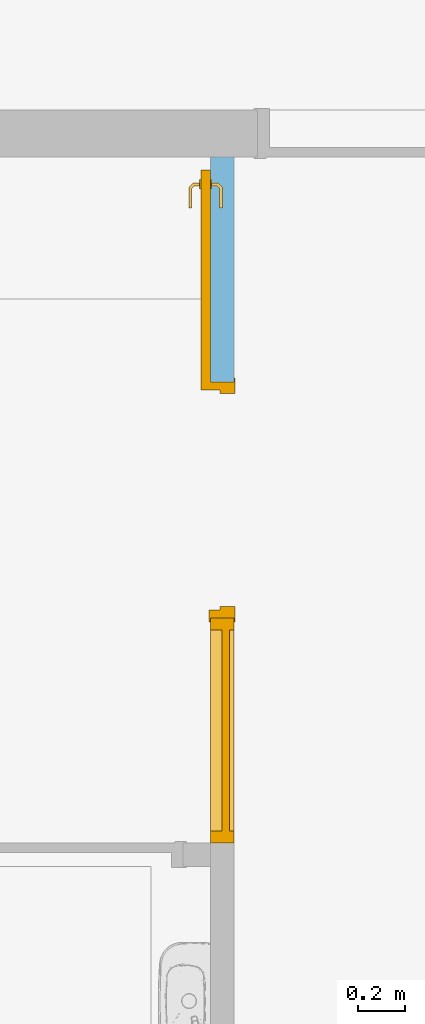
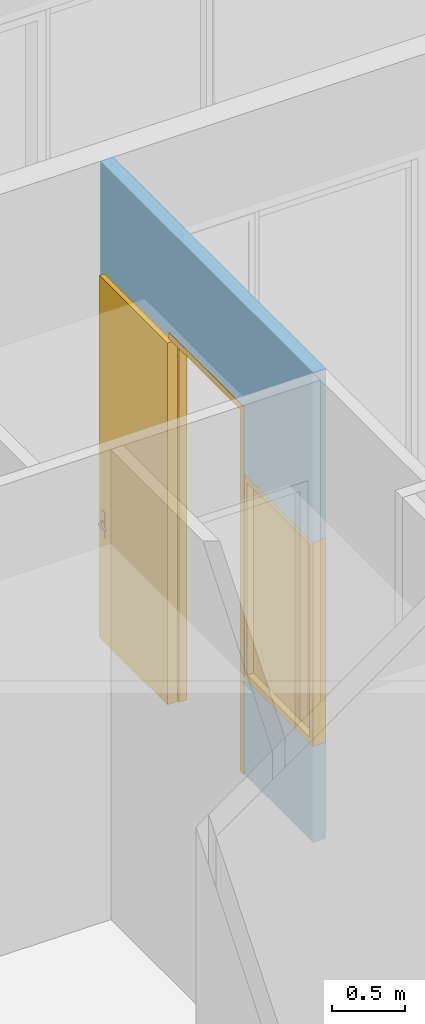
# One storey, part 219 of 240: 1 door, 1 window, 2 openings, plus 1 element that does not belong to this part.
"""IFC2X3 building model written with IfcOpenShell, lengths in centimetres."""

import ifcopenshell
import ifcopenshell.guid

model = None  # the IFC model being written
_history = None  # IfcOwnerHistory: only IFC2X3 demands one
_inside = {}  # id of a spatial element -> (the spatial element, [elements in it])
_under = {}  # id of a project, library or spatial element -> (it, [spatial elements below it])
_declared = {}  # id of a project -> (the project, [libraries it declares])
_typed = {}  # id of a type object -> (the type object, [elements of that type])
_made_of = {}  # id of a material, layer set ... -> (it, [elements and type objects made of it])


def new_model(schema):
    """Start an empty IFC model of exactly this schema.

    Asked for "IFC4X3", IfcOpenShell would pick the latest addendum, in which some entities
    have other attributes; the version numbers below select the first issue.
    IFC2X3 requires an IfcOwnerHistory on every rooted entity: one is made here for all.
    """
    global model, _history
    if schema == "IFC4X3":
        model = ifcopenshell.file(schema_version=(4, 3, 0, 0))
    else:
        model = ifcopenshell.file(schema=schema)
    _inside.clear()
    _under.clear()
    _declared.clear()
    _typed.clear()
    _made_of.clear()
    _history = None
    if model.schema == "IFC2X3":
        org = make("IfcOrganization", Name="unknown")
        user = make(
            "IfcPersonAndOrganization",
            ThePerson=make("IfcPerson", FamilyName="unknown"),
            TheOrganization=org,
        )
        app = make(
            "IfcApplication",
            ApplicationDeveloper=org,
            Version="unknown",
            ApplicationFullName="unknown",
            ApplicationIdentifier="unknown",
        )
        _history = make(
            "IfcOwnerHistory",
            OwningUser=user,
            OwningApplication=app,
            ChangeAction="ADDED",
            CreationDate=0,
        )
    return model


def make(cls, **values):
    """One entity of the class cls with the attributes given. An attribute that is None is left unset."""
    return model.create_entity(
        cls, **{name: value for name, value in values.items() if value is not None}
    )


def entity(cls, *values):
    """Any entity or typed value of the class cls, its attributes in the order of the schema. None: left unset."""
    e = model.create_entity(cls)
    for i, value in enumerate(values):
        if value is not None:
            e[i] = value
    return e


def rooted(cls, **values):
    """An entity with a GlobalId (a new one), such as an element, a storey or a relation."""
    return make(cls, GlobalId=ifcopenshell.guid.new(), OwnerHistory=_history, **values)


def si_unit(unit_type, name, prefix=None):
    """IfcSIUnit, for example si_unit("LENGTHUNIT", "METRE", prefix="MILLI")."""
    return make("IfcSIUnit", UnitType=unit_type, Prefix=prefix, Name=name)


def converted_unit(unit_type, name, factor, base, dimensions=None, offset=None):
    """IfcConversionBasedUnit, such as the inch: factor (a typed value) times the base unit."""
    return make(
        "IfcConversionBasedUnit"
        if offset is None
        else "IfcConversionBasedUnitWithOffset",
        ConversionOffset=offset,
        Dimensions=None
        if dimensions is None
        else entity("IfcDimensionalExponents", *dimensions),
        UnitType=unit_type,
        Name=name,
        ConversionFactor=make(
            "IfcMeasureWithUnit", ValueComponent=factor, UnitComponent=base
        ),
    )


def derived_unit(unit_type, elements):
    """IfcDerivedUnit: a product of units, each with its exponent."""
    return make(
        "IfcDerivedUnit",
        Elements=[
            make("IfcDerivedUnitElement", Unit=unit, Exponent=power)
            for unit, power in elements
        ],
        UnitType=unit_type,
    )


def assignment(units):
    """IfcUnitAssignment: the units of a project."""
    return None if units is None else make("IfcUnitAssignment", Units=units)


def point(xyz):
    """IfcCartesianPoint."""
    return None if xyz is None else make("IfcCartesianPoint", Coordinates=xyz)


def direction(xyz):
    """IfcDirection."""
    return None if xyz is None else make("IfcDirection", DirectionRatios=xyz)


def frame(location, z_axis=None, x_axis=None):
    """IfcAxis2Placement3D, a coordinate frame: its origin and axes. An axis left out is left unset."""
    return make(
        "IfcAxis2Placement3D",
        Location=point(location),
        Axis=direction(z_axis),
        RefDirection=direction(x_axis),
    )


def frame_2d(location, x_axis=None):
    """IfcAxis2Placement2D, a coordinate frame in the plane: its origin and x axis."""
    return make(
        "IfcAxis2Placement2D", Location=point(location), RefDirection=direction(x_axis)
    )


def origin():
    """The frame at (0, 0, 0) with its axes left unset."""
    return frame((0.0, 0.0, 0.0))


def place(relative_to, where):
    """IfcLocalPlacement: puts the frame where relative to a parent placement (None: the world)."""
    return make(
        "IfcLocalPlacement", PlacementRelTo=relative_to, RelativePlacement=where
    )


def context(
    kind, dimensions, precision=None, world=None, true_north=None, identifier=None
):
    """IfcGeometricRepresentationContext, for example the 3D "Model" context."""
    return make(
        "IfcGeometricRepresentationContext",
        ContextIdentifier=identifier,
        ContextType=kind,
        CoordinateSpaceDimension=dimensions,
        Precision=precision,
        WorldCoordinateSystem=world,
        TrueNorth=true_north,
    )


def subcontext(parent, identifier, kind, view, scale=None):
    """IfcGeometricRepresentationSubContext, for example "Body" below "Model"."""
    return make(
        "IfcGeometricRepresentationSubContext",
        ContextIdentifier=identifier,
        ContextType=kind,
        ParentContext=parent,
        TargetScale=scale,
        TargetView=view,
    )


def project(units=None, contexts=None):
    """IfcProject with its units and contexts."""
    return rooted(
        "IfcProject",
        Name="project",
        RepresentationContexts=contexts,
        UnitsInContext=assignment(units),
    )


def spatial(cls, under=None, at=None, **own):
    """A site, building, storey or space (cls), placed at a placement, below another one or the project."""
    s = rooted(cls, ObjectPlacement=at, **own)
    if under is not None:
        _under.setdefault(under.id(), (under, []))[1].append(s)
    return s


def polyline(points):
    """IfcPolyline through the points."""
    return make("IfcPolyline", Points=[point(p) for p in points])


def profile(cls, at=None, kind="AREA", **sizes):
    """A parametric profile (cls). Its sizes go by their IFC names, for example OverallWidth=200.0."""
    return make(cls, ProfileType=kind, Position=at, **sizes)


def rectangle(**sizes):
    """IfcRectangleProfileDef."""
    return profile("IfcRectangleProfileDef", **sizes)


def extrude(swept, where, along, depth):
    """IfcExtrudedAreaSolid: the profile swept, set in the frame where, extruded along a direction by depth."""
    return make(
        "IfcExtrudedAreaSolid",
        SweptArea=swept,
        Position=where,
        ExtrudedDirection=direction(along),
        Depth=depth,
    )


def clip(a, b, op="DIFFERENCE"):
    """IfcBooleanClippingResult: the solid a cut by the half space b."""
    return make(
        "IfcBooleanClippingResult", Operator=op, FirstOperand=a, SecondOperand=b
    )


def bounded_halfspace(plane, agree, where, boundary):
    """IfcPolygonalBoundedHalfSpace: a half space limited to a polygon's prism."""
    return make(
        "IfcPolygonalBoundedHalfSpace",
        BaseSurface=make("IfcPlane", Position=plane),
        AgreementFlag=agree,
        Position=where,
        PolygonalBoundary=boundary,
    )


def faces_of(points, faces, orient=None, outer=None):
    """IfcFace entities. A face is a list of loops; a loop is a list of indices into points, from 0.

    orient and outer hold one flag for each loop. By default every Orientation is true, the
    first loop of a face is its IfcFaceOuterBound and the others are IfcFaceBound.
    """
    made = []
    for i, loops in enumerate(faces):
        bounds = []
        for j, loop in enumerate(loops):
            is_outer = j == 0 if outer is None else outer[i][j]
            bounds.append(
                make(
                    "IfcFaceOuterBound" if is_outer else "IfcFaceBound",
                    Bound=make("IfcPolyLoop", Polygon=[points[k] for k in loop]),
                    Orientation=True if orient is None else orient[i][j],
                )
            )
        made.append(make("IfcFace", Bounds=bounds))
    return made


def faceted_brep(points, faces, orient=None, outer=None, voids=None):
    """IfcFacetedBrep: a solid bounded by flat faces; with voids (closed shells), ...WithVoids."""
    shared = [point(p) for p in points]
    hull = make("IfcClosedShell", CfsFaces=faces_of(shared, faces, orient, outer))
    if voids is None:
        return make("IfcFacetedBrep", Outer=hull)
    return make(
        "IfcFacetedBrepWithVoids",
        Outer=hull,
        Voids=[
            make(cls, CfsFaces=faces_of(shared, fs, o, b)) for cls, fs, o, b in voids
        ],
    )


def shape(context_of_items, identifier, shape_type, items):
    """IfcShapeRepresentation: the items that make up one representation, for example the "Body"."""
    return make(
        "IfcShapeRepresentation",
        ContextOfItems=context_of_items,
        RepresentationIdentifier=identifier,
        RepresentationType=shape_type,
        Items=items,
    )


def source(mapping_origin, context_of_items, identifier, shape_type, items):
    """IfcRepresentationMap: a shape defined once, which mapped items show again and again."""
    return make(
        "IfcRepresentationMap",
        MappingOrigin=mapping_origin,
        MappedRepresentation=shape(context_of_items, identifier, shape_type, items),
    )


def transform(
    local_origin,
    x_axis=None,
    y_axis=None,
    z_axis=None,
    scale=None,
    scale2=None,
    scale3=None,
    uniform=True,
):
    """IfcCartesianTransformationOperator3D, or its non-uniform kind. x_axis, y_axis, z_axis: its Axis1, 2, 3."""
    if uniform:
        return make(
            "IfcCartesianTransformationOperator3D",
            Axis1=direction(x_axis),
            Axis2=direction(y_axis),
            LocalOrigin=point(local_origin),
            Scale=scale,
            Axis3=direction(z_axis),
        )
    return make(
        "IfcCartesianTransformationOperator3DnonUniform",
        Axis1=direction(x_axis),
        Axis2=direction(y_axis),
        LocalOrigin=point(local_origin),
        Scale=scale,
        Axis3=direction(z_axis),
        Scale2=scale2,
        Scale3=scale3,
    )


def mapped(mapping_source, mapping_target):
    """IfcMappedItem: shows the shape of a source again, moved by a transform."""
    return make(
        "IfcMappedItem", MappingSource=mapping_source, MappingTarget=mapping_target
    )


def material(Name=None, Category=None):
    """IfcMaterial."""
    return make("IfcMaterial", Name=Name, Category=Category)


def material_list(materials):
    """IfcMaterialList."""
    return make("IfcMaterialList", Materials=materials)


def layer(
    of_material, thickness, ventilated=None, Name=None, Category=None, Priority=None
):
    """IfcMaterialLayer: one layer of a wall or slab, of a material (None: an air gap)."""
    return make(
        "IfcMaterialLayer",
        Material=of_material,
        LayerThickness=thickness,
        IsVentilated=ventilated,
        Name=Name,
        Category=Category,
        Priority=Priority,
    )


def layer_set(layers, Name=None):
    """IfcMaterialLayerSet."""
    return make("IfcMaterialLayerSet", MaterialLayers=layers, LayerSetName=Name)


def layer_usage(for_layer_set, set_direction, sense, offset, extent=None):
    """IfcMaterialLayerSetUsage: how a layer set lies in its element."""
    return make(
        "IfcMaterialLayerSetUsage",
        ForLayerSet=for_layer_set,
        LayerSetDirection=set_direction,
        DirectionSense=sense,
        OffsetFromReferenceLine=offset,
        ReferenceExtent=extent,
    )


def made_of(thing, what):
    """Note that an element or type object is made of a material, layer set ...; save() writes the relation."""
    if what is not None:
        _made_of.setdefault(what.id(), (what, []))[1].append(thing)
    return thing


def type_object(cls, material=None, **own):
    """A type object (cls), such as IfcWallType, which elements share."""
    return made_of(rooted(cls, **own), material)


def type_shapes(of_type, sources):
    """Give a type object the sources (RepresentationMaps) that its elements show as mapped items."""
    of_type.RepresentationMaps = sources


def element(
    cls,
    number,
    at=None,
    inside=None,
    cuts=None,
    type_object=None,
    material=None,
    context=None,
    identifier="Body",
    shape_type=None,
    held_by="IfcProductDefinitionShape",
    body=None,
    shapes=None,
    **own,
):
    """One element of the class cls, such as IfcWall. Its Tag is "e" and its number.

    at: its placement. inside: the storey or other place that contains it. cuts: it is an
    opening in that element (IfcRelVoidsElement). A single representation is given by context,
    identifier, shape_type and body (its items); several are given by shapes. held_by: the class
    of the entity that holds the representations. save() writes the other relations.
    """
    e = rooted(cls, Tag="e%d" % number, ObjectPlacement=at, **own)
    if body is not None:
        shapes = [shape(context, identifier, shape_type, body)]
    if shapes is not None:
        e.Representation = make(held_by, Representations=shapes)
    if inside is not None:
        _inside.setdefault(inside.id(), (inside, []))[1].append(e)
    if cuts is not None:
        rooted(
            "IfcRelVoidsElement", RelatingBuildingElement=cuts, RelatedOpeningElement=e
        )
    if type_object is not None:
        _typed.setdefault(type_object.id(), (type_object, []))[1].append(e)
    return made_of(e, material)


def fill(opening, filler):
    """IfcRelFillsElement: the door or window that sits in an opening."""
    return rooted(
        "IfcRelFillsElement",
        RelatingOpeningElement=opening,
        RelatedBuildingElement=filler,
    )


def aggregate(whole, parts):
    """IfcRelAggregates: a whole, such as a stair, and the parts it consists of."""
    return rooted("IfcRelAggregates", RelatingObject=whole, RelatedObjects=parts)


def save(model, path):
    """Write the relations noted so far, then the file.

    IfcRelAggregates (storeys below a building ...), IfcRelContainedInSpatialStructure (elements
    in a storey), IfcRelDefinesByType, IfcRelAssociatesMaterial and IfcRelDeclares: one each for
    every whole, place, type object, material and project.
    """
    for whole, parts in _under.values():
        aggregate(whole, parts)
    for where, things in _inside.values():
        rooted(
            "IfcRelContainedInSpatialStructure",
            RelatedElements=things,
            RelatingStructure=where,
        )
    for kind, things in _typed.values():
        rooted("IfcRelDefinesByType", RelatedObjects=things, RelatingType=kind)
    for what, things in _made_of.values():
        rooted("IfcRelAssociatesMaterial", RelatedObjects=things, RelatingMaterial=what)
    for by, libraries in _declared.values():
        rooted("IfcRelDeclares", RelatingContext=by, RelatedDefinitions=libraries)
    model.write(path)


model = new_model("IFC2X3")

# Units and contexts
model_context = context("Model", 3, precision=0.001, world=origin(), true_north=direction((6.12303176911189e-17, 1.0)))
body_context = subcontext(model_context, "Body", "Model", "MODEL_VIEW")
ifc_project = project(units=[si_unit("LENGTHUNIT", "METRE", prefix="CENTI"), si_unit("AREAUNIT", "SQUARE_METRE"), si_unit("VOLUMEUNIT", "CUBIC_METRE"), converted_unit("PLANEANGLEUNIT", "DEGREE", entity("IfcRatioMeasure", 0.0174532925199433), si_unit("PLANEANGLEUNIT", "RADIAN"), dimensions=[0, 0, 0, 0, 0, 0, 0]), si_unit("MASSUNIT", "GRAM", prefix="KILO"), derived_unit("MASSDENSITYUNIT", [(si_unit("MASSUNIT", "GRAM", prefix="KILO"), 1), (si_unit("LENGTHUNIT", "METRE"), -3)]), si_unit("TIMEUNIT", "SECOND"), si_unit("FREQUENCYUNIT", "HERTZ"), si_unit("THERMODYNAMICTEMPERATUREUNIT", "DEGREE_CELSIUS"), derived_unit("THERMALTRANSMITTANCEUNIT", [(si_unit("MASSUNIT", "GRAM", prefix="KILO"), 1), (si_unit("THERMODYNAMICTEMPERATUREUNIT", "KELVIN"), -1), (si_unit("TIMEUNIT", "SECOND"), -3)]), derived_unit("VOLUMETRICFLOWRATEUNIT", [(si_unit("LENGTHUNIT", "METRE"), 3), (si_unit("TIMEUNIT", "SECOND"), -1)]), si_unit("ELECTRICCURRENTUNIT", "AMPERE"), si_unit("ELECTRICVOLTAGEUNIT", "VOLT"), si_unit("POWERUNIT", "WATT"), si_unit("FORCEUNIT", "NEWTON", prefix="KILO"), si_unit("ILLUMINANCEUNIT", "LUX"), si_unit("LUMINOUSFLUXUNIT", "LUMEN"), si_unit("LUMINOUSINTENSITYUNIT", "CANDELA"), derived_unit("USERDEFINED", [(si_unit("MASSUNIT", "GRAM", prefix="KILO"), -1), (si_unit("LENGTHUNIT", "METRE"), -2), (si_unit("TIMEUNIT", "SECOND"), 3), (si_unit("LUMINOUSFLUXUNIT", "LUMEN"), 1)]), derived_unit("LINEARVELOCITYUNIT", [(si_unit("LENGTHUNIT", "METRE"), 1), (si_unit("TIMEUNIT", "SECOND"), -1)]), si_unit("PRESSUREUNIT", "PASCAL"), derived_unit("USERDEFINED", [(si_unit("LENGTHUNIT", "METRE"), -2), (si_unit("MASSUNIT", "GRAM", prefix="KILO"), 1), (si_unit("TIMEUNIT", "SECOND"), -2)])], contexts=[model_context])

# Site, building, storey
site_placement = place(None, frame((-2781.94577612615, 7442.24238424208, 0.0)))
site = spatial("IfcSite", under=ifc_project, at=site_placement, Name="Default", CompositionType="ELEMENT")
building_placement = place(site_placement, origin())
building = spatial("IfcBuilding", under=site, at=building_placement, CompositionType="ELEMENT")
storey_placement = place(building_placement, origin())
storey = spatial("IfcBuildingStorey", under=building, at=storey_placement, Name="N00 - COO", CompositionType="ELEMENT", Elevation=0.0)

# Wall, openings, door, window
ifc_material_1 = material(Name="01 - Enduit/Plâtre")
ifc_layer_1 = layer(ifc_material_1, 1.3)
ifc_material_2 = material(Name="00 - Isolant")
ifc_layer_2 = layer(ifc_material_2, 7.4)
ifc_layer_3 = layer(ifc_material_1, 1.3)
ifc_layer_set = layer_set([ifc_layer_1, ifc_layer_2, ifc_layer_3], Name="Mur de base:06 - cloisons - Ba13 10cm")
ifc_layer_usage = layer_usage(ifc_layer_set, "AXIS2", "NEGATIVE", 5.0)
wall_type = type_object("IfcWallType", Name="Mur de base:06 - cloisons - Ba13 10cm", PredefinedType="STANDARD", material=ifc_layer_set)
wall_placement = place(building_placement, frame((-5114.49987760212, -1110.0, 0.0), z_axis=(0.0, 0.0, 1.0), x_axis=(0.0, -1.0, 0.0)))
wall = element("IfcWallStandardCase", 1, at=wall_placement, inside=storey, type_object=wall_type, material=ifc_layer_usage, Name="Mur de base:06 - cloisons - Ba13 10cm", ObjectType="Mur de base:06 - cloisons - Ba13 10cm", context=body_context, shape_type="Clipping", body=[
    clip(extrude(rectangle(XDim=290.000000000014, YDim=9.99999999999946, at=frame_2d((145.000000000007, 1.57207580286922e-13), x_axis=(-1.0, 0.0))), origin(), (0.0, 0.0, 1.0), 391.0), bounded_halfspace(frame((0.0, -5.0, 391.0), z_axis=(0.0, 0.0, -1.0), x_axis=(-1.0, 0.0, 0.0)), True, frame((0.0, -5.0, 391.0)), polyline([(0.0, 0.0), (290.0, 0.0), (290.0, 10.0), (0.0, 10.0), (0.0, 0.0)]))),
])
opening_1_placement = place(wall_placement, frame((195.0, 5.0, 0.0)))
opening_1 = element("IfcOpeningElement", 2, at=opening_1_placement, cuts=wall, Name="Int. Simple:PV (0.93m x 3.00m):1", ObjectType="Opening", context=body_context, shape_type="SweptSolid", body=[
    extrude(rectangle(XDim=304.500000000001, YDim=99.9999999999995, at=frame_2d((152.250000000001, 49.9999999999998), x_axis=(1.0, 0.0))), frame((0.0, 0.0, 0.0), z_axis=(0.0, -1.0, 0.0), x_axis=(0.0, 0.0, 1.0)), (0.0, 0.0, 1.0), 10.0),
])
opening_2_placement = place(wall_placement, frame((290.0, 5.0, 80.0)))
opening_2 = element("IfcOpeningElement", 3, at=opening_2_placement, cuts=wall, Name="châssis intérieur vitré:châssis intérieur vitré (h=170):1", ObjectType="Opening", context=body_context, shape_type="SweptSolid", body=[
    extrude(rectangle(XDim=170.0, YDim=94.9999999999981, at=frame_2d((84.9999999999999, 47.4999999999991), x_axis=(1.0, 0.0))), frame((0.0, 0.0, 0.0), z_axis=(0.0, -1.0, 0.0), x_axis=(0.0, 0.0, 1.0)), (0.0, 0.0, 1.0), 10.0),
])
ifc_material_3 = material(Name="Finition Peinture - Blanc satiné")
ifc_material_4 = material(Name="Bois - Panneau de porte")
ifc_material_5 = material(Name="Bois - Cadre de porte")
ifc_material_list_1 = material_list([ifc_material_3, ifc_material_4, ifc_material_5])
ifc_material_list_2 = material_list([ifc_material_3, ifc_material_4, ifc_material_5])
door_style = type_object("IfcDoorStyle", Name="PV (0.93m x 3.00m)", ConstructionType="NOTDEFINED", OperationType="SINGLE_SWING_RIGHT", ParameterTakesPrecedence=False, Sizeable=False, material=ifc_material_list_2)
shared_shape_1 = source(origin(), body_context, "Body", "Brep", [
    faceted_brep([(-78.4999999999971, 0.499999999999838, 87.0), (-78.4999999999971, 0.499999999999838, 108.0), (-77.5352761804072, 0.499999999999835, 108.399601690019), (-76.4999999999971, 0.499999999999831, 108.535898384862), (-75.4647238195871, 0.499999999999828, 108.399601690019), (-74.4999999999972, 0.499999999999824, 108.0), (-74.499999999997, 0.499999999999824, 87.0), (-75.4647238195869, 0.499999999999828, 86.6003983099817), (-76.499999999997, 0.499999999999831, 86.464101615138), (-77.5352761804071, 0.499999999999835, 86.6003983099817), (-78.4999999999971, 0.0, 108.0), (-78.499999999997, 0.0, 87.0), (-77.5352761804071, 0.0, 86.6003983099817), (-76.499999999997, 0.0, 86.464101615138), (-75.464723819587, 0.0, 86.6003983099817), (-74.4999999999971, 0.0, 87.0), (-74.4999999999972, 0.0, 108.0), (-75.4647238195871, 0.0, 108.399601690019), (-76.4999999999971, 0.0, 108.535898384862), (-77.5352761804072, 0.0, 108.399601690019)], [[[0, 1, 2, 3, 4, 5, 6, 7, 8, 9]], [[10, 11, 12, 13, 14, 15, 16, 17, 18, 19]], [[9, 12, 11, 0]], [[8, 13, 12, 9]], [[7, 14, 13, 8]], [[7, 6, 15, 14]], [[15, 6, 5, 16]], [[4, 17, 16, 5]], [[3, 18, 17, 4]], [[2, 19, 18, 3]], [[2, 1, 10, 19]], [[11, 10, 1, 0]]]),
    faceted_brep([(-78.4999999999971, -4.0, 87.0), (-78.4999999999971, -4.0, 108.0), (-77.5352761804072, -4.0, 108.399601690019), (-76.4999999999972, -4.0, 108.535898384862), (-75.4647238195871, -4.0, 108.399601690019), (-74.4999999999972, -4.0, 108.0), (-74.4999999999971, -4.0, 87.0), (-75.464723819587, -4.0, 86.6003983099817), (-76.499999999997, -4.0, 86.464101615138), (-77.5352761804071, -4.0, 86.6003983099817), (-76.4999999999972, -4.50000000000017, 108.535898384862), (-77.5352761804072, -4.50000000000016, 108.399601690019), (-78.4999999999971, -4.50000000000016, 108.0), (-78.499999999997, -4.50000000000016, 87.0), (-77.5352761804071, -4.50000000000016, 86.6003983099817), (-76.499999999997, -4.50000000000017, 86.464101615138), (-75.464723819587, -4.50000000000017, 86.6003983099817), (-74.4999999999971, -4.50000000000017, 87.0), (-74.4999999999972, -4.50000000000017, 108.0), (-75.4647238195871, -4.50000000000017, 108.399601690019)], [[[0, 1, 2, 3, 4, 5, 6, 7, 8, 9]], [[10, 11, 12, 13, 14, 15, 16, 17, 18, 19]], [[4, 19, 18, 5]], [[3, 10, 19, 4]], [[2, 11, 10, 3]], [[2, 1, 12, 11]], [[13, 12, 1, 0]], [[9, 14, 13, 0]], [[8, 15, 14, 9]], [[7, 16, 15, 8]], [[7, 6, 17, 16]], [[17, 6, 5, 18]]]),
    faceted_brep([(-76.2974701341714, 0.499999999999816, 100.778044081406), (-76.7025298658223, 0.499999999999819, 100.778044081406), (-77.0999999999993, 0.499999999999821, 100.699999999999), (-77.1000000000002, 0.499999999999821, 99.2999999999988), (-76.7025298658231, 0.499999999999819, 99.221955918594), (-76.2974701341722, 0.499999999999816, 99.2219559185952), (-75.8999999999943, 0.499999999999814, 99.3000000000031), (-75.8999999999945, 0.499999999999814, 100.7), (-76.7025298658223, 3.10045754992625, 100.778044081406), (-77.0999999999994, 3.26509507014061, 100.7), (-76.2974701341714, 2.93267631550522, 100.778044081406), (-74.929860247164, 4.30028620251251, 100.778044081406), (-75.097641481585, 4.70534593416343, 100.778044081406), (-75.8999999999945, 2.76803879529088, 100.7), (-75.8999999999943, 2.76803879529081, 99.3000000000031), (-76.2974701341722, 2.93267631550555, 99.2219559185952), (-76.7025298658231, 3.10045754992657, 99.221955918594), (-75.0976414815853, 4.70534593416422, 99.221955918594), (-74.9298602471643, 4.3002862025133, 99.2219559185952), (-77.1000000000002, 3.26509507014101, 99.2999999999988), (-75.2622790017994, 5.10281606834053, 100.7), (-74.7652227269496, 3.9028160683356, 100.7), (-74.7652227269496, 3.90281606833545, 99.3000000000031), (-75.2622790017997, 5.10281606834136, 99.2999999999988), (-66.4981359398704, 5.10281606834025, 100.7), (-66.4981359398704, 4.70534593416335, 100.778044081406), (-66.4981359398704, 4.30028620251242, 100.778044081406), (-66.4981359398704, 3.90281606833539, 100.699999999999), (-66.4981359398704, 3.90281606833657, 99.3000000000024), (-66.4981359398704, 4.30028620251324, 99.2219559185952), (-66.4981359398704, 4.70534593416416, 99.221955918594), (-66.4981359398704, 5.10281606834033, 99.2999999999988), (-70.7139980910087, 4.50281606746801, 100.78786867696), (-71.2692302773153, 5.10281606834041, 100.7), (-70.63167933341, 3.90281606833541, 100.7), (-70.6316793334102, 3.9028160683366, 99.3000000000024), (-70.7139981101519, 4.50281607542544, 99.2121313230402), (-71.2692310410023, 5.10281606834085, 99.2999999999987)], [[[0, 1, 2, 3, 4, 5, 6, 7]], [[2, 1, 8, 9]], [[1, 0, 10, 11, 12, 8]], [[0, 7, 13, 10]], [[14, 13, 7, 6]], [[5, 15, 14, 6]], [[5, 4, 16, 17, 18, 15]], [[3, 19, 16, 4]], [[9, 19, 3, 2]], [[9, 8, 12, 20]], [[10, 13, 21, 11]], [[22, 21, 13, 14]], [[14, 15, 18, 22]], [[16, 19, 23, 17]], [[20, 23, 19, 9]], [[24, 25, 26, 27, 28, 29, 30, 31]], [[32, 25, 33]], [[33, 25, 24]], [[33, 20, 12]], [[11, 34, 32]], [[34, 11, 21]], [[27, 26, 34]], [[32, 26, 25]], [[32, 34, 26]], [[32, 33, 12]], [[11, 32, 12]], [[21, 22, 35, 28, 27, 34]], [[36, 29, 35]], [[30, 36, 37]], [[18, 35, 22]], [[29, 28, 35]], [[30, 37, 31]], [[37, 17, 23]], [[36, 17, 37]], [[36, 18, 17]], [[36, 35, 18]], [[29, 36, 30]], [[23, 20, 33, 24, 31, 37]]]),
    faceted_brep([(-76.2974701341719, -4.50000000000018, 99.2219559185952), (-76.7025298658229, -4.50000000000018, 99.221955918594), (-77.099999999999, -4.50000000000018, 99.2999999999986), (-77.0999999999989, -4.50000000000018, 100.7), (-76.702529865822, -4.50000000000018, 100.778044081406), (-76.2974701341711, -4.50000000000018, 100.778044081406), (-75.8999999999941, -4.50000000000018, 100.7), (-75.8999999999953, -4.50000000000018, 99.3000000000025), (-75.8999999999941, -6.74852045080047, 100.7), (-75.8999999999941, -6.74852045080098, 99.3000000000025), (-76.2974701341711, -6.91315797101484, 100.778044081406), (-76.702529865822, -7.08093920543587, 100.778044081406), (-75.0838906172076, -8.69957845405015, 100.778044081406), (-74.9161093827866, -8.29451872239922, 100.778044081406), (-77.0999999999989, -7.2455767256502, 100.7), (-77.099999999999, -7.24557672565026, 99.2999999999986), (-76.7025298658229, -7.08093920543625, 99.221955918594), (-76.297470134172, -6.91315797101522, 99.2219559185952), (-74.916109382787, -8.29451872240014, 99.2219559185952), (-75.083890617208, -8.69957845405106, 99.221955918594), (-74.7514718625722, -7.89704858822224, 100.7), (-74.7514718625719, -7.8970485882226, 99.3000000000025), (-75.2485281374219, -9.09704858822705, 100.7), (-75.248528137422, -9.09704858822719, 99.2999999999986), (-66.4954216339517, -8.29451872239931, 100.778044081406), (-66.4954216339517, -8.69957845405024, 100.778044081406), (-66.4954216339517, -9.09704858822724, 100.7), (-66.4954216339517, -9.09704858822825, 99.2999999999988), (-66.4954216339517, -8.69957845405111, 99.221955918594), (-66.4954216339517, -8.29451872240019, 99.2219559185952), (-66.4954216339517, -7.8970485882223, 99.3000000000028), (-66.4954216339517, -7.89704858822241, 100.7), (-70.623446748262, -7.89704858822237, 100.7), (-70.6234479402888, -7.89704858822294, 99.3000000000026), (-70.7057655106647, -8.49704858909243, 100.78786867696), (-71.2554794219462, -9.09704858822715, 100.7), (-71.2554795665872, -9.09704858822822, 99.2999999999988), (-70.7057654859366, -8.49704858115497, 99.2121313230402)], [[[0, 1, 2, 3, 4, 5, 6, 7]], [[8, 9, 7, 6]], [[5, 10, 8, 6]], [[5, 4, 11, 12, 13, 10]], [[3, 14, 11, 4]], [[14, 3, 2, 15]], [[2, 1, 16, 15]], [[1, 0, 17, 18, 19, 16]], [[0, 7, 9, 17]], [[20, 21, 9, 8]], [[8, 10, 13, 20]], [[14, 22, 12, 11]], [[23, 22, 14, 15]], [[15, 16, 19, 23]], [[17, 9, 21, 18]], [[24, 25, 26, 27, 28, 29, 30, 31]], [[21, 20, 32, 31, 30, 33]], [[34, 24, 32]], [[25, 34, 35]], [[13, 32, 20]], [[24, 31, 32]], [[25, 35, 26]], [[35, 12, 22]], [[34, 12, 35]], [[34, 13, 12]], [[34, 32, 13]], [[24, 34, 25]], [[22, 23, 36, 27, 26, 35]], [[37, 28, 36]], [[36, 28, 27]], [[36, 23, 19]], [[18, 33, 37]], [[33, 18, 21]], [[30, 29, 33]], [[37, 29, 28]], [[37, 33, 29]], [[37, 36, 19]], [[18, 37, 19]]]),
    faceted_brep([(-82.4999999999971, -4.0, 301.0), (-82.4999999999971, -4.0, 0.0), (10.5000000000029, -4.0, 0.0), (10.5000000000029, -4.0, 301.0), (-82.4999999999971, 0.0, 301.0), (10.5000000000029, 0.0, 301.0), (10.5000000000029, 0.0, 0.0), (-82.4999999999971, 0.0, 0.0)], [[[0, 1, 2, 3]], [[4, 5, 6, 7]], [[3, 5, 4, 0]], [[2, 6, 5, 3]], [[1, 7, 6, 2]], [[0, 4, 7, 1]]]),
    faceted_brep([(107.0, 10.0, 0.0), (107.0, 0.0, 0.0), (108.500000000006, 0.0, 0.0), (108.500000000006, -0.500000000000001, 0.0), (103.500000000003, -0.500000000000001, 0.0), (103.500000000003, 4.0, 0.0), (102.0, 4.0, 0.0), (102.0, 10.5000000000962, 0.0), (108.500000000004, 10.5000000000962, 0.0), (108.500000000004, 10.0, 0.0), (108.500000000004, 10.0, 306.0), (5.50000000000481, 10.0, 306.0), (5.50000000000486, 10.0, 0.0), (7.0, 10.0, 0.0), (7.0, 10.0, 304.500000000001), (107.0, 10.0, 304.500000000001), (108.500000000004, 10.5000000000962, 306.0), (102.0, 10.5000000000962, 299.5), (12.0, 10.5000000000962, 299.5), (12.0, 10.5000000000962, 0.0), (5.50000000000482, 10.5000000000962, 0.0), (5.50000000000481, 10.5000000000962, 306.0), (102.0, 4.0, 299.5), (103.500000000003, 4.0, 301.0), (10.5000000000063, 4.0, 301.0), (10.5000000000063, 4.0, 0.0), (12.0, 4.0, 0.0), (12.0, 4.0, 299.5), (103.500000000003, -0.500000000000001, 301.0), (108.500000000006, -0.500000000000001, 306.0), (5.5000000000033, -0.500000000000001, 306.0), (5.50000000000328, -0.500000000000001, 0.0), (10.5000000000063, -0.500000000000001, 0.0), (10.5000000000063, -0.500000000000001, 301.0), (108.500000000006, 0.0, 306.0), (107.0, 0.0, 304.500000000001), (7.0, 0.0, 304.500000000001), (7.0, 0.0, 0.0), (5.5000000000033, 0.0, 0.0), (5.50000000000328, 0.0, 306.0)], [[[0, 1, 2, 3, 4, 5, 6, 7, 8, 9]], [[9, 10, 11, 12, 13, 14, 15, 0]], [[8, 16, 10, 9]], [[7, 17, 18, 19, 20, 21, 16, 8]], [[7, 6, 22, 17]], [[5, 23, 24, 25, 26, 27, 22, 6]], [[5, 4, 28, 23]], [[3, 29, 30, 31, 32, 33, 28, 4]], [[2, 34, 29, 3]], [[1, 35, 36, 37, 38, 39, 34, 2]], [[0, 15, 35, 1]], [[14, 13, 37, 36]], [[13, 12, 20, 19, 26, 25, 32, 31, 38, 37]], [[21, 20, 12, 11]], [[27, 26, 19, 18]], [[33, 32, 25, 24]], [[39, 38, 31, 30]], [[15, 14, 36, 35]], [[16, 21, 11, 10]], [[22, 27, 18, 17]], [[28, 33, 24, 23]], [[34, 39, 30, 29]]]),
])
type_shapes(door_style, [shared_shape_1])
door_placement = place(opening_1_placement, frame((-107.0, -10.0, 0.0)))
door = element("IfcDoor", 4, at=door_placement, inside=storey, type_object=door_style, material=ifc_material_list_1, Name="Int. Simple:PV (0.93m x 3.00m)", ObjectType="Int. Simple:PV (0.93m x 3.00m)", OverallHeight=304.500000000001, OverallWidth=99.9999999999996, context=body_context, shape_type="MappedRepresentation", body=[
    mapped(shared_shape_1, transform((0.0, 0.0, 0.0), scale=1.0)),
])
fill(opening_1, door)
ifc_material_6 = material(Name="Verre")
ifc_material_7 = material(Name="huisserie bois")
ifc_material_list_3 = material_list([ifc_material_6, ifc_material_7])
ifc_material_list_4 = material_list([ifc_material_6, ifc_material_7])
window_style = type_object("IfcWindowStyle", Name="châssis intérieur vitré (h=170)", ConstructionType="NOTDEFINED", OperationType="NOTDEFINED", ParameterTakesPrecedence=False, Sizeable=False, material=ifc_material_list_4)
shared_shape_2 = source(origin(), body_context, "Body", "Brep", [
    faceted_brep([(3.0, 5.0, 167.0), (92.0, 5.0, 167.0), (92.0, 5.0, 3.0), (3.0, 5.0, 3.0), (3.0, 2.0, 3.0), (3.0, 2.0, 167.0), (92.0, 2.0, 3.0), (92.0, 2.0, 167.0)], [[[0, 1, 2, 3]], [[3, 4, 5, 0]], [[2, 6, 4, 3]], [[1, 7, 6, 2]], [[5, 4, 6, 7]], [[0, 5, 7, 1]]]),
    faceted_brep([(3.0, 2.0, 167.0), (3.0, 2.0, 3.0), (3.0, 0.0, 3.0), (3.0, 0.0, 167.0), (92.0, 0.0, 3.0), (92.0, 0.0, 167.0), (5.0, 0.0, 5.0), (5.0, 0.0, 165.0), (90.0, 0.0, 165.0), (90.0, 0.0, 5.0), (92.0, 2.0, 3.0), (92.0, 2.0, 167.0), (5.0, 2.0, 165.0), (5.0, 2.0, 5.0), (90.0, 2.0, 5.0), (90.0, 2.0, 165.0)], [[[0, 1, 2, 3]], [[3, 2, 4, 5], [6, 7, 8, 9]], [[1, 10, 4, 2]], [[1, 0, 11, 10], [12, 13, 14, 15]], [[7, 6, 13, 12]], [[6, 9, 14, 13]], [[10, 11, 5, 4]], [[9, 8, 15, 14]], [[11, 0, 3, 5]], [[8, 7, 12, 15]]]),
    faceted_brep([(5.0, 5.0, 165.0), (5.0, 5.0, 5.0), (5.0, 10.0, 5.0), (5.0, 10.0, 165.0), (90.0, 10.0, 5.0), (90.0, 10.0, 165.0), (0.0, 10.0, 0.0), (0.0, 10.0, 170.0), (95.0, 10.0, 170.0), (95.0, 10.0, 0.0), (90.0, 5.0, 5.0), (90.0, 5.0, 165.0), (3.0, 5.0, 167.0), (3.0, 5.0, 3.0), (92.0, 5.0, 3.0), (92.0, 5.0, 167.0), (3.0, 0.0, 167.0), (3.0, 0.0, 3.0), (92.0, 0.0, 3.0), (92.0, 0.0, 167.0), (0.0, 0.0, 170.0), (0.0, 0.0, 0.0), (95.0, 0.0, 0.0), (95.0, 0.0, 170.0)], [[[0, 1, 2, 3]], [[3, 2, 4, 5], [6, 7, 8, 9]], [[1, 10, 4, 2]], [[1, 0, 11, 10], [12, 13, 14, 15]], [[16, 17, 13, 12]], [[17, 18, 14, 13]], [[17, 16, 19, 18], [20, 21, 22, 23]], [[7, 6, 21, 20]], [[6, 9, 22, 21]], [[10, 11, 5, 4]], [[18, 19, 15, 14]], [[9, 8, 23, 22]], [[11, 0, 3, 5]], [[19, 16, 12, 15]], [[8, 7, 20, 23]]], outer=[[True], [False, True], [True], [False, True], [True], [True], [False, True], [True], [True], [True], [True], [True], [True], [True], [True]]),
])
type_shapes(window_style, [shared_shape_2])
window_placement = place(opening_2_placement, frame((0.0, 0.0, 0.0), z_axis=(0.0, 0.0, 1.0), x_axis=(-1.0, 0.0, 0.0)))
window = element("IfcWindow", 5, at=window_placement, inside=storey, type_object=window_style, material=ifc_material_list_3, Name="châssis intérieur vitré:châssis intérieur vitré (h=170)", ObjectType="châssis intérieur vitré:châssis intérieur vitré (h=170)", OverallHeight=170.0, OverallWidth=94.9999999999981, context=body_context, shape_type="MappedRepresentation", body=[
    mapped(shared_shape_2, transform((0.0, 0.0, 0.0), scale=1.0)),
])
fill(opening_2, window)

save(model, "model.ifc")
